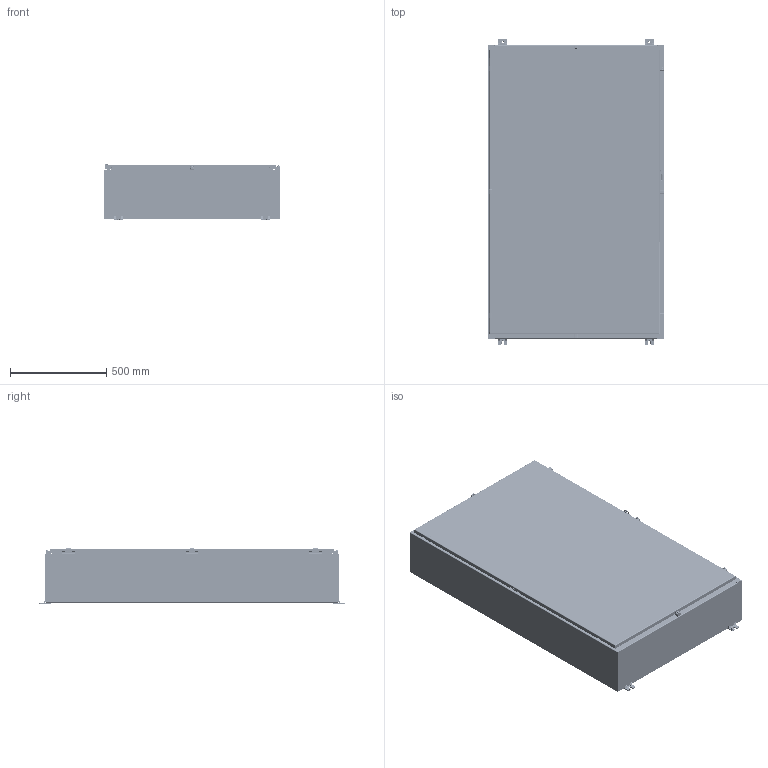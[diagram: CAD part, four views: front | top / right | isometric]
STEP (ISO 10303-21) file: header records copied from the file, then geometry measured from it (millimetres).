
FILE_DESCRIPTION((''),'2;1');
FILE_NAME('MODEL-309_ASM','2026-07-13T13:01:41',('joshi'),('SAGINAW CONTROL & ENGINEERING'),'CREO PARAMETRIC BY PTC INC, 2021284','CREO PARAMETRIC BY PTC INC, 2021284','');
FILE_SCHEMA(('AUTOMOTIVE_DESIGN { 1 0 10303 214 1 1 1 1 }'));
Length unit declared in the file: inch
Products named in the file (36): MODEL-309-BDY; MODEL-309-TP; MODEL-309-BTM; MODEL-309-DR; 100837; 100882; 111267; MODEL-309-DOOR-GASKET; 126391; 126391_ASM; 126393; 102483; 101226; 101376; 102140; 115117; MODEL-309-DOOR-ASSY_ASM; 101653; 121454; 120132_BASE; 120132_CLAMP; 120132_SCREW; 120132_SPRING; 120132_ASM; 120133; SUBPANEL; 100904; SUBPANEL-SUBASSEMBLY_ASM; 128630; 100059; 128630_ASM; 128631; 128631_ASM; 100921; 125493_ASM; MODEL-309_ASM
Assembly tree (88 placements, depth 4):
  MODEL-309_ASM
    MODEL-309-BDY
    MODEL-309-TP
    MODEL-309-BTM
    MODEL-309-DOOR-ASSY_ASM
      MODEL-309-DR
      100837  x3
      100882  x2
      111267
      MODEL-309-DOOR-GASKET
      126391_ASM  x3
        126391
      126393  x3
      102483  x10
      101226  x3
      101376  x3
      102140  x3
      115117
    100837
    101653  x8
    121454
    120132_ASM  x5
      120132_BASE
      120132_CLAMP
      120132_SCREW
      120132_SPRING
    100882  x6
    120133
    SUBPANEL-SUBASSEMBLY_ASM
      SUBPANEL
      100904  x8
    125493_ASM
      128630_ASM  x2
        128630
        100059
      128631_ASM  x2
        128631
        100059
      100921  x4
Bounding box: 914.4 x 1587.5 x 287.73 mm (x, y, z)
Volume: 12974174.8 mm3; surface area: 11616189.9 mm2
Topology: 97 solids, 97 shells, 7068 faces, 18326 edges, 11583 vertices
Faces by surface type: plane 2648, cylinder 1804, bspline 1529, torus 686, cone 234, sphere 167
Entity records: 120833 total; most frequent: CARTESIAN_POINT 36835, ORIENTED_EDGE 12450, DIRECTION 12135, PRESENTATION_STYLE_ASSIGNMENT 6358, STYLED_ITEM 6358, CURVE_STYLE 6225, EDGE_CURVE 6225, AXIS2_PLACEMENT_3D 4502
